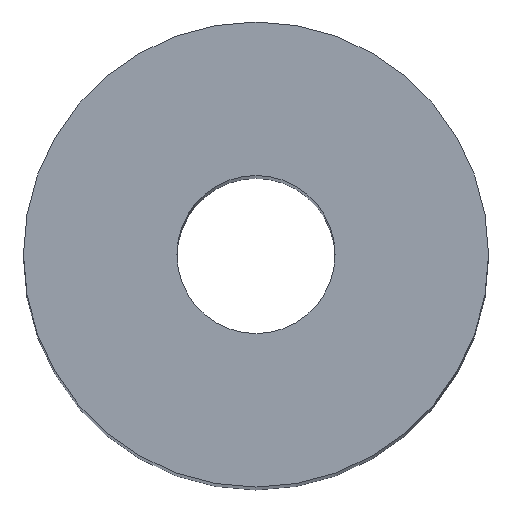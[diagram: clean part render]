
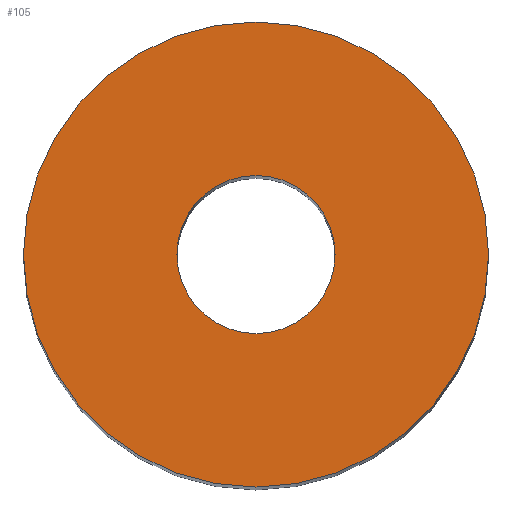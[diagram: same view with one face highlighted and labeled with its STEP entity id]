
A CAD part, top view. The second image highlights one B-rep face of the part: STEP entity #105.
In plain terms, the highlighted planar face has unit normal (0, 0, 1).
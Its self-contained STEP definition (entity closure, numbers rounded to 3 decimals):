
#21 = EDGE_CURVE('',#22,#22,#24,.T.);
#22 = VERTEX_POINT('',#23);
#23 = CARTESIAN_POINT('',(5.,0.,36.));
#24 = SURFACE_CURVE('',#25,(#30,#42),.PCURVE_S1.);
#25 = CIRCLE('',#26,5.);
#26 = AXIS2_PLACEMENT_3D('',#27,#28,#29);
#27 = CARTESIAN_POINT('',(0.,0.,36.));
#28 = DIRECTION('',(0.,0.,1.));
#29 = DIRECTION('',(1.,0.,-0.));
#30 = PCURVE('',#31,#36);
#31 = CYLINDRICAL_SURFACE('',#32,5.);
#32 = AXIS2_PLACEMENT_3D('',#33,#34,#35);
#33 = CARTESIAN_POINT('',(0.,0.,0.));
#34 = DIRECTION('',(0.,0.,1.));
#35 = DIRECTION('',(1.,0.,-0.));
#36 = DEFINITIONAL_REPRESENTATION('',(#37),#41);
#37 = LINE('',#38,#39);
#38 = CARTESIAN_POINT('',(0.,36.));
#39 = VECTOR('',#40,1.);
#40 = DIRECTION('',(1.,0.));
#41 = ( GEOMETRIC_REPRESENTATION_CONTEXT(2) 
PARAMETRIC_REPRESENTATION_CONTEXT() REPRESENTATION_CONTEXT('2D SPACE',''
  ) );
#42 = PCURVE('',#43,#48);
#43 = PLANE('',#44);
#44 = AXIS2_PLACEMENT_3D('',#45,#46,#47);
#45 = CARTESIAN_POINT('',(0.,0.,36.));
#46 = DIRECTION('',(0.,0.,1.));
#47 = DIRECTION('',(1.,0.,-0.));
#48 = DEFINITIONAL_REPRESENTATION('',(#49),#53);
#49 = CIRCLE('',#50,5.);
#50 = AXIS2_PLACEMENT_2D('',#51,#52);
#51 = CARTESIAN_POINT('',(0.,0.));
#52 = DIRECTION('',(1.,0.));
#53 = ( GEOMETRIC_REPRESENTATION_CONTEXT(2) 
PARAMETRIC_REPRESENTATION_CONTEXT() REPRESENTATION_CONTEXT('2D SPACE',''
  ) );
#105 = ADVANCED_FACE('',(#106,#109),#43,.T.);
#106 = FACE_BOUND('',#107,.T.);
#107 = EDGE_LOOP('',(#108));
#108 = ORIENTED_EDGE('',*,*,#21,.T.);
#109 = FACE_BOUND('',#110,.T.);
#110 = EDGE_LOOP('',(#111));
#111 = ORIENTED_EDGE('',*,*,#112,.F.);
#112 = EDGE_CURVE('',#113,#113,#115,.T.);
#113 = VERTEX_POINT('',#114);
#114 = CARTESIAN_POINT('',(1.7,0.,36.));
#115 = SURFACE_CURVE('',#116,(#121,#128),.PCURVE_S1.);
#116 = CIRCLE('',#117,1.7);
#117 = AXIS2_PLACEMENT_3D('',#118,#119,#120);
#118 = CARTESIAN_POINT('',(0.,0.,36.));
#119 = DIRECTION('',(0.,0.,1.));
#120 = DIRECTION('',(1.,0.,-0.));
#121 = PCURVE('',#43,#122);
#122 = DEFINITIONAL_REPRESENTATION('',(#123),#127);
#123 = CIRCLE('',#124,1.7);
#124 = AXIS2_PLACEMENT_2D('',#125,#126);
#125 = CARTESIAN_POINT('',(0.,0.));
#126 = DIRECTION('',(1.,0.));
#127 = ( GEOMETRIC_REPRESENTATION_CONTEXT(2) 
PARAMETRIC_REPRESENTATION_CONTEXT() REPRESENTATION_CONTEXT('2D SPACE',''
  ) );
#128 = PCURVE('',#129,#134);
#129 = CYLINDRICAL_SURFACE('',#130,1.7);
#130 = AXIS2_PLACEMENT_3D('',#131,#132,#133);
#131 = CARTESIAN_POINT('',(0.,0.,-1.));
#132 = DIRECTION('',(0.,0.,1.));
#133 = DIRECTION('',(1.,0.,-0.));
#134 = DEFINITIONAL_REPRESENTATION('',(#135),#139);
#135 = LINE('',#136,#137);
#136 = CARTESIAN_POINT('',(0.,37.));
#137 = VECTOR('',#138,1.);
#138 = DIRECTION('',(1.,0.));
#139 = ( GEOMETRIC_REPRESENTATION_CONTEXT(2) 
PARAMETRIC_REPRESENTATION_CONTEXT() REPRESENTATION_CONTEXT('2D SPACE',''
  ) );
